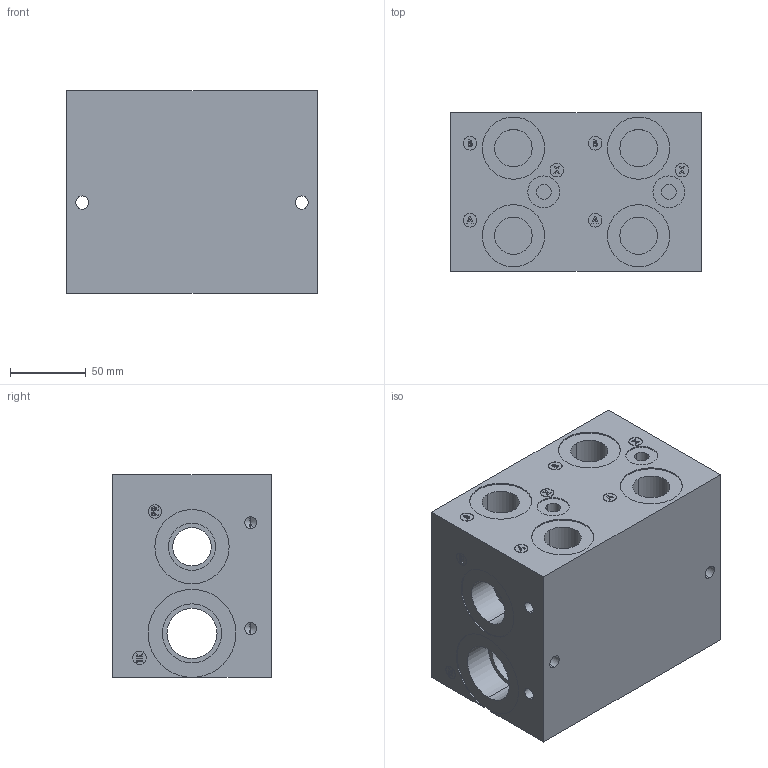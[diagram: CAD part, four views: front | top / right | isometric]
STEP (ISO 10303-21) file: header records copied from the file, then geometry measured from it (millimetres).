
FILE_DESCRIPTION (( 'STEP AP203' ), '1' );
FILE_NAME ('BM-AHP05HS3-02-1_Z.STEP', '2015-01-06T16:19:22', ( '' ), ( '' ), 'SwSTEP 2.0', 'SolidWorks 2014', '' );
FILE_SCHEMA (( 'CONFIG_CONTROL_DESIGN' ));
Length unit declared in the file: inch
Products named in the file (1): BM-AHP05HS3-02-1_Z
Bounding box: 165.1 x 104.65 x 133.35 mm (x, y, z)
Volume: 1974826.3 mm3; surface area: 159103.1 mm2
Topology: 1 solids, 1 shells, 471 faces, 1155 edges, 731 vertices
Faces by surface type: plane 234, cylinder 149, cone 50, bspline 38
Entity records: 15916 total; most frequent: CARTESIAN_POINT 4934, ORIENTED_EDGE 2218, DIRECTION 2187, EDGE_CURVE 1109, AXIS2_PLACEMENT_3D 732, VERTEX_POINT 731, VECTOR 723, LINE 723
